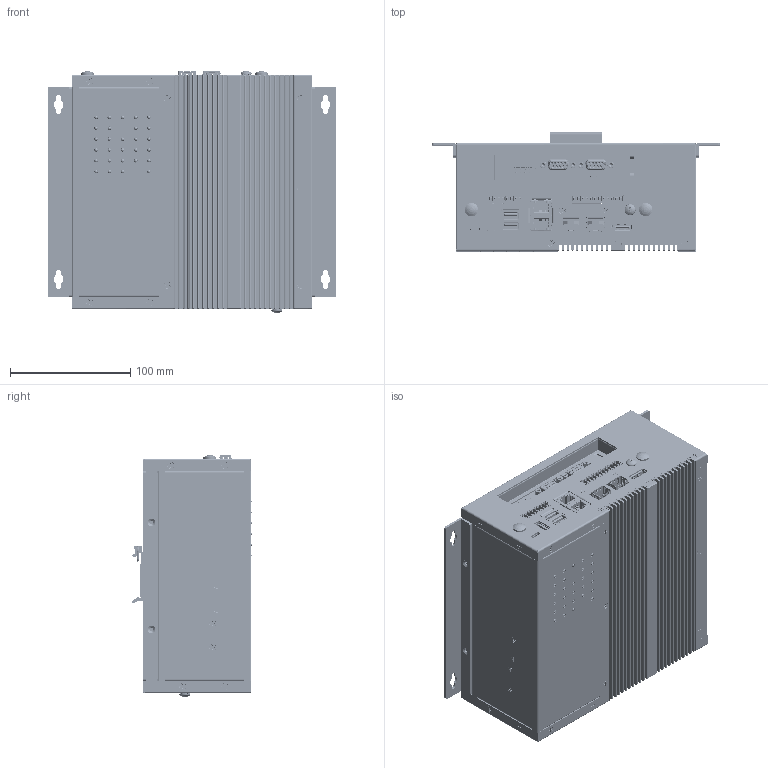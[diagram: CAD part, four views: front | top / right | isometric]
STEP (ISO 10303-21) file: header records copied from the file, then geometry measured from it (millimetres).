
FILE_DESCRIPTION((''),'2;1');
FILE_NAME('0-SYS-LEC-G100A_ASM','2020-12-03T',('cy_chung'),(''),'PRO/ENGINEER BY PARAMETRIC TECHNOLOGY CORPORATION, 2015440','PRO/ENGINEER BY PARAMETRIC TECHNOLOGY CORPORATION, 2015440','');
FILE_SCHEMA(('CONFIG_CONTROL_DESIGN'));
Products named in the file (132): LEB-G100A; UT12113-116B2-7H_A_DC1; 04AW300943102-USB-30; 04AW300842102-FINAL; RJ45-04AW000053000; 04DW10203J302-SFP; 3VD51203-D7JJ-7H-04AW000227000; PCB-MINPCIE; AS0B226-S68N-7F_3D; ASM-CARD-MINI-PCIE-XXXX-HOLE_ASM; 2E0BC2X-S85BB-XH-3D__A-3042; PCB-M_2-A-KEY; FX18-60P-0_8SV10; 04AW000061100-1X3PIN; 04CW22043K205-AS0A626-H8SN-7H; PCIE_BODY; SU-15S-3034; 04DW000010010-SD-SOCKET; LEB-G100A_ASM; IO-G100LEDA; LED-047W000028000; CSHD-W10R-2X20GOR-CF194; IO-G100LEDA_ASM; IO-G100A; ME030-35012T-20191029; BME03035008; BME030350P102-20091112_A; ME030-35008T_ASM; FX18-60S-0_8SV20; K1001WV-S-11A0-2X15P-1; TA1001WV-S-2-P-12B5-1; TA1001WV-S-2-P-12B5-2; TA1001WV-S-2-K-12A3-1; K1001WV-S-2CG-11A0-1; CSHD-W10-2X20GOR-CF194_ASM; CON-RJ45-04AW701632101; ME030-35016T; 04AW102P4Z101-2PIN; 5_08; 1_14-27_2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
Assembly tree (327 placements, depth 6):
  0-SYS-LEC-G100A_ASM
    ASM-PCBA-LEC-G100A_ASM
      LEB-G100A_ASM
        LEB-G100A
        UT12113-116B2-7H_A_DC1
        04AW300943102-USB-30
        04AW300842102-FINAL
        RJ45-04AW000053000
        04DW10203J302-SFP  x2
        3VD51203-D7JJ-7H-04AW000227000
        ASM-CARD-MINI-PCIE-XXXX-HOLE_ASM
          PCB-MINPCIE
          AS0B226-S68N-7F_3D
        2E0BC2X-S85BB-XH-3D__A-3042
        PCB-M_2-A-KEY
        FX18-60P-0_8SV10
        04AW000061100-1X3PIN
        04CW22043K205-AS0A626-H8SN-7H
        PCIE_BODY
        SU-15S-3034  x3
        04DW000010010-SD-SOCKET
      IO-G100LEDA_ASM
        IO-G100LEDA
        LED-047W000028000  x28
        CSHD-W10R-2X20GOR-CF194
      IO-G100A_ASM
        IO-G100A
        ME030-35012T-20191029
        ME030-35008T_ASM
          BME03035008
          BME030350P102-20091112_A  x8
        FX18-60S-0_8SV20
        CSHD-W10-2X20GOR-CF194_ASM
          K1001WV-S-11A0-2X15P-1
          TA1001WV-S-2-P-12B5-1  x20
          TA1001WV-S-2-P-12B5-2  x20
          TA1001WV-S-2-K-12A3-1  x2
          K1001WV-S-2CG-11A0-1
        CON-RJ45-04AW701632101  x2
        ME030-35016T
        04AW102P4Z101-2PIN
        CW-W508-02_ASM
          5_08
          1_14-27_2  x2
      PB-G100A_ASM
        PB-G100A
        04AW20024E102
        04AW000061100-1X3PIN
        DCM3623X50TXX
        CW-W508-02_ASM
          5_08
          1_14-27_2  x2
      RC-G100A_ASM
        RC-G100A
        CON-PCIE-KPCI-064AN3-LN6
      520-0315LF_ASM
        520-0315LF-D20-HDLE-GE
    ASM-MAIN-CHASSIS-LEC-CG100A_ASM
      MAIN-ASM-COVER-FRONT-LEC-CG100A_ASM
        ASM-COVER-FRONT-SINK-LEC-CG100A_ASM
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Bounding box: 240 x 99.3 x 201.39 mm (x, y, z)
Volume: 778451.6 mm3; surface area: 852849.3 mm2
Topology: 345 solids, 476 shells, 38137 faces, 124622 edges, 91168 vertices
Faces by surface type: plane 26665, cylinder 8535, cone 1080, bspline 973, torus 391, extrusion 282, sphere 210, revolution 1
Entity records: 1061955 total; most frequent: CARTESIAN_POINT 250195, DIRECTION 159894, ORIENTED_EDGE 157146, EDGE_CURVE 78573, VECTOR 77515, LINE 77233, VERTEX_POINT 51138, AXIS2_PLACEMENT_3D 41189
